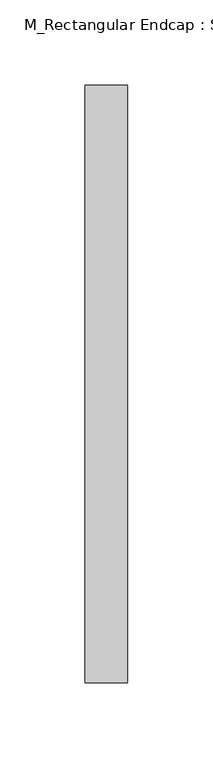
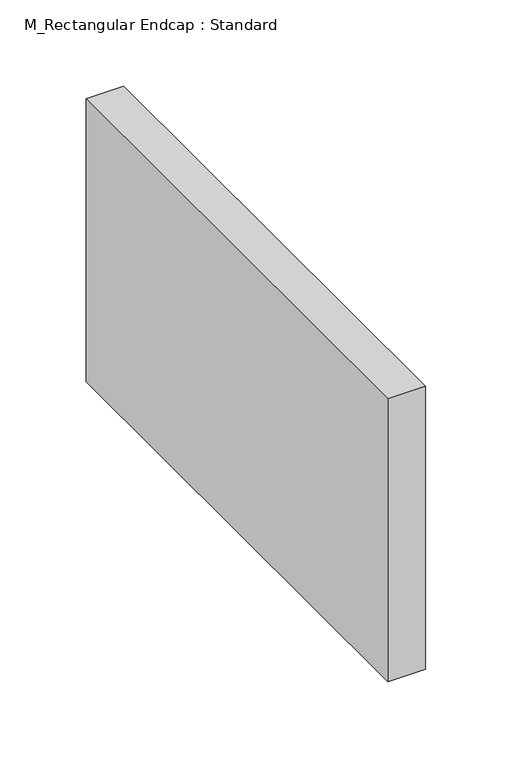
"""IFC4 building model written with IfcOpenShell, lengths in millimetres: duct fitting geometry, M_Rectangular Endcap : Standard."""

from ifc_helpers import new_model, si_unit, frame, origin, place, context, project, spatial, polyline, outline, extrude, source, transform, mapped, element, save


def m_rectangular_endcap_standard_665b9dd8(model_context):
    return source(origin(), model_context, "Body", "SweptSolid", [
        extrude(outline(polyline([(0.0, -175.0), (0.0, 175.0), (25.0, 175.0), (25.0, -175.0), (0.0, -175.0)])), frame((0.0, 0.0, -100.0), z_axis=(0.0, 0.0, 1.0), x_axis=(1.0, 0.0, 0.0)), (0.0, 0.0, 1.0), 200.0),
    ])


if __name__ == "__main__":
    model = new_model("IFC4")
    model_context = context("Model", 3, world=origin())
    ifc_project = project(units=[si_unit("LENGTHUNIT", "METRE", prefix="MILLI")], contexts=[model_context])
    site = spatial("IfcSite", under=ifc_project)
    building = spatial("IfcBuilding", under=site)
    placement = place(None, origin())
    m_rectangular_endcap_standard_shape = m_rectangular_endcap_standard_665b9dd8(model_context)
    element("IfcDuctFitting", 1, ObjectType="M_Rectangular Endcap : Standard", at=placement, inside=building, context=model_context, shape_type="MappedRepresentation", body=[
        mapped(m_rectangular_endcap_standard_shape, transform((0.0, 0.0, 0.0), x_axis=(1.0, 0.0, 0.0), y_axis=(0.0, 1.0, 0.0), z_axis=(0.0, 0.0, 1.0))),
    ])
    save(model, "model.ifc")
